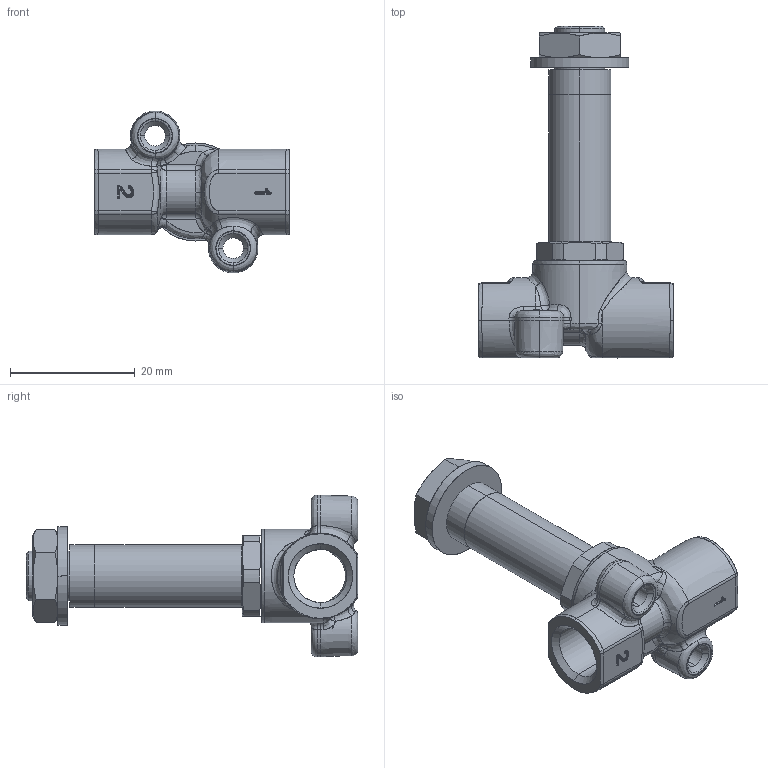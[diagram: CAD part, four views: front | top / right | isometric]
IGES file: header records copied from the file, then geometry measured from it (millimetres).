
Start section: SolidWorks IGES file using analytic representation for surfaces
Global section: file name: K:\Disegni Esecutivi\Elettrovalvole per fluidi\AZIONE DIRETTA CW617N\assiemi file PARTE\IGES + STEP\01F02115N0.IGS; native system: SolidWorks 2015; preprocessor: SolidWorks 2015; author: cad06; date: 150909.151950; units: millimetre
Bounding box: 31.2 x 53.1 x 25.92 mm (x, y, z)
Surface area: 4416.6 mm2 (no closed solid volume)
Topology: 0 solids, 0 shells, 280 faces, 3007 edges, 2993 vertices
Faces by surface type: bspline 169, revolution 111
